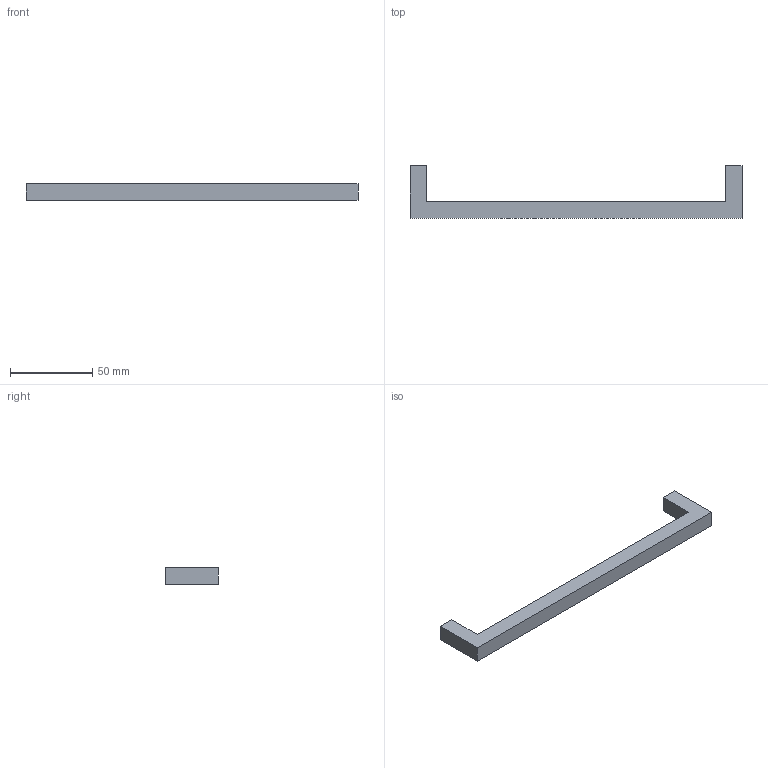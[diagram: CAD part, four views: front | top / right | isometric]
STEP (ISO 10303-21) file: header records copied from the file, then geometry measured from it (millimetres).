
FILE_DESCRIPTION( ( 'STEP AP214' ), '1' );
FILE_NAME( 'C:/Users/kulkarni/Desktop/Apurva/2015/Prodecor_2016/Cadfiles/same as files/Anzio/9204175.stp', ' ', ( ' ' ), ( ' ' ), 'PSStep 15.0.47', 'PARTsolutions', ' ' );
FILE_SCHEMA( ( 'AUTOMOTIVE_DESIGN { 1 0 10303 214 1 1 1 1 }' ) );
Length unit declared in the file: millimetre
Products named in the file (1): _9204175
Bounding box: 202 x 32 x 10 mm (x, y, z)
Volume: 24348.7 mm3; surface area: 10291.3 mm2
Topology: 1 solids, 1 shells, 14 faces, 30 edges, 20 vertices
Faces by surface type: plane 12, cylinder 2
Full cylindrical faces by diameter (mm): 4 x2
Entity records: 496 total; most frequent: CARTESIAN_POINT 63, DIRECTION 62, ORIENTED_EDGE 56, EDGE_CURVE 28, LINE 24, VECTOR 24, VERTEX_POINT 20, AXIS2_PLACEMENT_3D 19
